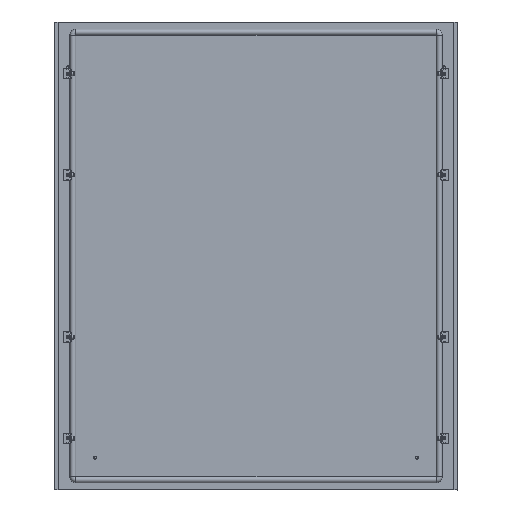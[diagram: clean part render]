
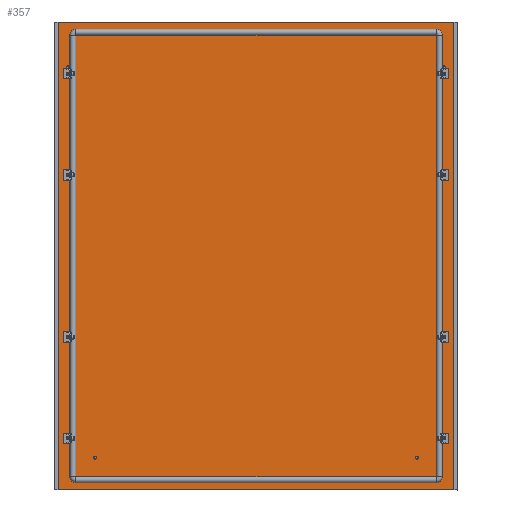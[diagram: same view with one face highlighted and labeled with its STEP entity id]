
A CAD part, top view. The second image highlights one B-rep face of the part: STEP entity #357.
In plain terms, the highlighted planar face has unit normal (0, 0, 1).
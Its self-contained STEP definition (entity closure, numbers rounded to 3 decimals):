
#357 = ADVANCED_FACE('',(#358,#456,#467,#478,#498,#518,#529,#540,#560),
  #580,.F.);
#358 = FACE_BOUND('',#359,.T.);
#359 = EDGE_LOOP('',(#360,#370,#378,#386,#394,#402,#410,#418,#426,#434,
    #442,#450));
#360 = ORIENTED_EDGE('',*,*,#361,.F.);
#361 = EDGE_CURVE('',#362,#364,#366,.T.);
#362 = VERTEX_POINT('',#363);
#363 = CARTESIAN_POINT('',(-495.5,577.5,0.));
#364 = VERTEX_POINT('',#365);
#365 = CARTESIAN_POINT('',(-495.3,577.5,0.));
#366 = LINE('',#367,#368);
#367 = CARTESIAN_POINT('',(0.,577.5,0.)
  );
#368 = VECTOR('',#369,1.);
#369 = DIRECTION('',(1.,0.,0.));
#370 = ORIENTED_EDGE('',*,*,#371,.T.);
#371 = EDGE_CURVE('',#362,#372,#374,.T.);
#372 = VERTEX_POINT('',#373);
#373 = CARTESIAN_POINT('',(-495.5,-577.5,
    0.));
#374 = LINE('',#375,#376);
#375 = CARTESIAN_POINT('',(-495.5,0.,
    0.));
#376 = VECTOR('',#377,1.);
#377 = DIRECTION('',(0.,-1.,0.));
#378 = ORIENTED_EDGE('',*,*,#379,.T.);
#379 = EDGE_CURVE('',#372,#380,#382,.T.);
#380 = VERTEX_POINT('',#381);
#381 = CARTESIAN_POINT('',(-495.3,-577.5,
    0.));
#382 = LINE('',#383,#384);
#383 = CARTESIAN_POINT('',(0.,-577.5,
    0.));
#384 = VECTOR('',#385,1.);
#385 = DIRECTION('',(1.,-0.,-0.));
#386 = ORIENTED_EDGE('',*,*,#387,.F.);
#387 = EDGE_CURVE('',#388,#380,#390,.T.);
#388 = VERTEX_POINT('',#389);
#389 = CARTESIAN_POINT('',(-495.3,-576.,
    0.));
#390 = LINE('',#391,#392);
#391 = CARTESIAN_POINT('',(-495.3,0.,
    0.));
#392 = VECTOR('',#393,1.);
#393 = DIRECTION('',(0.,-1.,0.));
#394 = ORIENTED_EDGE('',*,*,#395,.T.);
#395 = EDGE_CURVE('',#388,#396,#398,.T.);
#396 = VERTEX_POINT('',#397);
#397 = CARTESIAN_POINT('',(495.3,-576.,
    0.));
#398 = LINE('',#399,#400);
#399 = CARTESIAN_POINT('',(0.,-576.,
    0.));
#400 = VECTOR('',#401,1.);
#401 = DIRECTION('',(1.,-0.,-0.));
#402 = ORIENTED_EDGE('',*,*,#403,.T.);
#403 = EDGE_CURVE('',#396,#404,#406,.T.);
#404 = VERTEX_POINT('',#405);
#405 = CARTESIAN_POINT('',(495.3,-577.5,0.));
#406 = LINE('',#407,#408);
#407 = CARTESIAN_POINT('',(495.3,-576.,
    0.));
#408 = VECTOR('',#409,1.);
#409 = DIRECTION('',(0.,-1.,0.));
#410 = ORIENTED_EDGE('',*,*,#411,.F.);
#411 = EDGE_CURVE('',#412,#404,#414,.T.);
#412 = VERTEX_POINT('',#413);
#413 = CARTESIAN_POINT('',(495.5,-577.5,0.));
#414 = LINE('',#415,#416);
#415 = CARTESIAN_POINT('',(0.,-577.5,0.
    ));
#416 = VECTOR('',#417,1.);
#417 = DIRECTION('',(-1.,0.,0.));
#418 = ORIENTED_EDGE('',*,*,#419,.T.);
#419 = EDGE_CURVE('',#412,#420,#422,.T.);
#420 = VERTEX_POINT('',#421);
#421 = CARTESIAN_POINT('',(495.5,577.5,0.));
#422 = LINE('',#423,#424);
#423 = CARTESIAN_POINT('',(495.5,0.,0.));
#424 = VECTOR('',#425,1.);
#425 = DIRECTION('',(0.,1.,0.));
#426 = ORIENTED_EDGE('',*,*,#427,.T.);
#427 = EDGE_CURVE('',#420,#428,#430,.T.);
#428 = VERTEX_POINT('',#429);
#429 = CARTESIAN_POINT('',(495.3,577.5,0.));
#430 = LINE('',#431,#432);
#431 = CARTESIAN_POINT('',(0.,577.5,0.)
  );
#432 = VECTOR('',#433,1.);
#433 = DIRECTION('',(-1.,0.,0.));
#434 = ORIENTED_EDGE('',*,*,#435,.F.);
#435 = EDGE_CURVE('',#436,#428,#438,.T.);
#436 = VERTEX_POINT('',#437);
#437 = CARTESIAN_POINT('',(495.3,576.,0.));
#438 = LINE('',#439,#440);
#439 = CARTESIAN_POINT('',(495.3,0.,
    0.));
#440 = VECTOR('',#441,1.);
#441 = DIRECTION('',(0.,1.,0.));
#442 = ORIENTED_EDGE('',*,*,#443,.T.);
#443 = EDGE_CURVE('',#436,#444,#446,.T.);
#444 = VERTEX_POINT('',#445);
#445 = CARTESIAN_POINT('',(-495.3,576.,0.));
#446 = LINE('',#447,#448);
#447 = CARTESIAN_POINT('',(0.,576.,0.)
  );
#448 = VECTOR('',#449,1.);
#449 = DIRECTION('',(-1.,0.,0.));
#450 = ORIENTED_EDGE('',*,*,#451,.T.);
#451 = EDGE_CURVE('',#444,#364,#452,.T.);
#452 = LINE('',#453,#454);
#453 = CARTESIAN_POINT('',(-495.3,576.,0.));
#454 = VECTOR('',#455,1.);
#455 = DIRECTION('',(0.,1.,0.));
#456 = FACE_BOUND('',#457,.T.);
#457 = EDGE_LOOP('',(#458));
#458 = ORIENTED_EDGE('',*,*,#459,.T.);
#459 = EDGE_CURVE('',#460,#460,#462,.T.);
#460 = VERTEX_POINT('',#461);
#461 = CARTESIAN_POINT('',(-464.5,-195.25,
    0.));
#462 = CIRCLE('',#463,4.75);
#463 = AXIS2_PLACEMENT_3D('',#464,#465,#466);
#464 = CARTESIAN_POINT('',(-464.5,-200.,
    0.));
#465 = DIRECTION('',(0.,0.,-1.));
#466 = DIRECTION('',(0.,1.,0.));
#467 = FACE_BOUND('',#468,.T.);
#468 = EDGE_LOOP('',(#469));
#469 = ORIENTED_EDGE('',*,*,#470,.T.);
#470 = EDGE_CURVE('',#471,#471,#473,.T.);
#471 = VERTEX_POINT('',#472);
#472 = CARTESIAN_POINT('',(464.5,-204.75,
    0.));
#473 = CIRCLE('',#474,4.75);
#474 = AXIS2_PLACEMENT_3D('',#475,#476,#477);
#475 = CARTESIAN_POINT('',(464.5,-200.,
    0.));
#476 = DIRECTION('',(-0.,0.,-1.));
#477 = DIRECTION('',(0.,-1.,0.));
#478 = FACE_BOUND('',#479,.T.);
#479 = EDGE_LOOP('',(#480,#491));
#480 = ORIENTED_EDGE('',*,*,#481,.F.);
#481 = EDGE_CURVE('',#482,#484,#486,.T.);
#482 = VERTEX_POINT('',#483);
#483 = CARTESIAN_POINT('',(-464.5,454.75,
    0.));
#484 = VERTEX_POINT('',#485);
#485 = CARTESIAN_POINT('',(-464.5,445.25,
    0.));
#486 = CIRCLE('',#487,4.75);
#487 = AXIS2_PLACEMENT_3D('',#488,#489,#490);
#488 = CARTESIAN_POINT('',(-464.5,450.,
    0.));
#489 = DIRECTION('',(0.,0.,1.));
#490 = DIRECTION('',(0.,1.,0.));
#491 = ORIENTED_EDGE('',*,*,#492,.F.);
#492 = EDGE_CURVE('',#484,#482,#493,.T.);
#493 = CIRCLE('',#494,4.75);
#494 = AXIS2_PLACEMENT_3D('',#495,#496,#497);
#495 = CARTESIAN_POINT('',(-464.5,450.,
    0.));
#496 = DIRECTION('',(0.,0.,1.));
#497 = DIRECTION('',(0.,1.,0.));
#498 = FACE_BOUND('',#499,.T.);
#499 = EDGE_LOOP('',(#500,#511));
#500 = ORIENTED_EDGE('',*,*,#501,.F.);
#501 = EDGE_CURVE('',#502,#504,#506,.T.);
#502 = VERTEX_POINT('',#503);
#503 = CARTESIAN_POINT('',(464.5,445.25,
    0.));
#504 = VERTEX_POINT('',#505);
#505 = CARTESIAN_POINT('',(464.5,454.75,
    0.));
#506 = CIRCLE('',#507,4.75);
#507 = AXIS2_PLACEMENT_3D('',#508,#509,#510);
#508 = CARTESIAN_POINT('',(464.5,450.,
    0.));
#509 = DIRECTION('',(0.,0.,1.));
#510 = DIRECTION('',(0.,-1.,0.));
#511 = ORIENTED_EDGE('',*,*,#512,.F.);
#512 = EDGE_CURVE('',#504,#502,#513,.T.);
#513 = CIRCLE('',#514,4.75);
#514 = AXIS2_PLACEMENT_3D('',#515,#516,#517);
#515 = CARTESIAN_POINT('',(464.5,450.,
    0.));
#516 = DIRECTION('',(0.,0.,1.));
#517 = DIRECTION('',(0.,-1.,0.));
#518 = FACE_BOUND('',#519,.T.);
#519 = EDGE_LOOP('',(#520));
#520 = ORIENTED_EDGE('',*,*,#521,.T.);
#521 = EDGE_CURVE('',#522,#522,#524,.T.);
#522 = VERTEX_POINT('',#523);
#523 = CARTESIAN_POINT('',(-464.5,-445.25,
    0.));
#524 = CIRCLE('',#525,4.75);
#525 = AXIS2_PLACEMENT_3D('',#526,#527,#528);
#526 = CARTESIAN_POINT('',(-464.5,-450.,
    0.));
#527 = DIRECTION('',(0.,0.,-1.));
#528 = DIRECTION('',(0.,1.,0.));
#529 = FACE_BOUND('',#530,.T.);
#530 = EDGE_LOOP('',(#531));
#531 = ORIENTED_EDGE('',*,*,#532,.T.);
#532 = EDGE_CURVE('',#533,#533,#535,.T.);
#533 = VERTEX_POINT('',#534);
#534 = CARTESIAN_POINT('',(464.5,-454.75,
    0.));
#535 = CIRCLE('',#536,4.75);
#536 = AXIS2_PLACEMENT_3D('',#537,#538,#539);
#537 = CARTESIAN_POINT('',(464.5,-450.,
    0.));
#538 = DIRECTION('',(-0.,0.,-1.));
#539 = DIRECTION('',(0.,-1.,0.));
#540 = FACE_BOUND('',#541,.T.);
#541 = EDGE_LOOP('',(#542,#553));
#542 = ORIENTED_EDGE('',*,*,#543,.F.);
#543 = EDGE_CURVE('',#544,#546,#548,.T.);
#544 = VERTEX_POINT('',#545);
#545 = CARTESIAN_POINT('',(464.5,195.25,
    0.));
#546 = VERTEX_POINT('',#547);
#547 = CARTESIAN_POINT('',(464.5,204.75,
    0.));
#548 = CIRCLE('',#549,4.75);
#549 = AXIS2_PLACEMENT_3D('',#550,#551,#552);
#550 = CARTESIAN_POINT('',(464.5,200.,
    0.));
#551 = DIRECTION('',(0.,0.,1.));
#552 = DIRECTION('',(0.,-1.,0.));
#553 = ORIENTED_EDGE('',*,*,#554,.F.);
#554 = EDGE_CURVE('',#546,#544,#555,.T.);
#555 = CIRCLE('',#556,4.75);
#556 = AXIS2_PLACEMENT_3D('',#557,#558,#559);
#557 = CARTESIAN_POINT('',(464.5,200.,
    0.));
#558 = DIRECTION('',(0.,0.,1.));
#559 = DIRECTION('',(0.,-1.,0.));
#560 = FACE_BOUND('',#561,.T.);
#561 = EDGE_LOOP('',(#562,#573));
#562 = ORIENTED_EDGE('',*,*,#563,.F.);
#563 = EDGE_CURVE('',#564,#566,#568,.T.);
#564 = VERTEX_POINT('',#565);
#565 = CARTESIAN_POINT('',(-464.5,204.75,
    0.));
#566 = VERTEX_POINT('',#567);
#567 = CARTESIAN_POINT('',(-464.5,195.25,
    0.));
#568 = CIRCLE('',#569,4.75);
#569 = AXIS2_PLACEMENT_3D('',#570,#571,#572);
#570 = CARTESIAN_POINT('',(-464.5,200.,
    0.));
#571 = DIRECTION('',(0.,0.,1.));
#572 = DIRECTION('',(0.,1.,0.));
#573 = ORIENTED_EDGE('',*,*,#574,.F.);
#574 = EDGE_CURVE('',#566,#564,#575,.T.);
#575 = CIRCLE('',#576,4.75);
#576 = AXIS2_PLACEMENT_3D('',#577,#578,#579);
#577 = CARTESIAN_POINT('',(-464.5,200.,
    0.));
#578 = DIRECTION('',(0.,0.,1.));
#579 = DIRECTION('',(0.,1.,0.));
#580 = PLANE('',#581);
#581 = AXIS2_PLACEMENT_3D('',#582,#583,#584);
#582 = CARTESIAN_POINT('',(0.,0.,
    0.));
#583 = DIRECTION('',(0.,0.,-1.));
#584 = DIRECTION('',(-1.,0.,0.));
